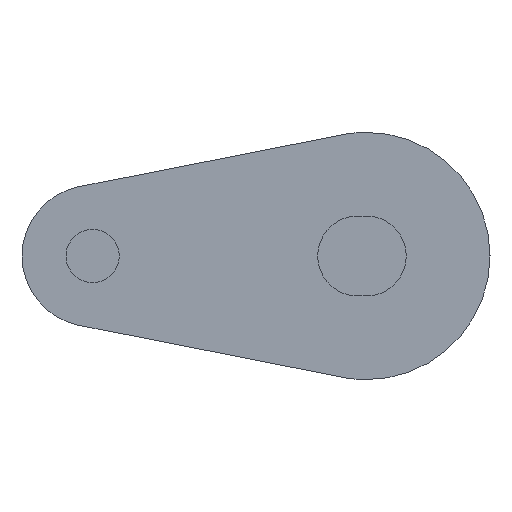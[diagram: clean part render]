
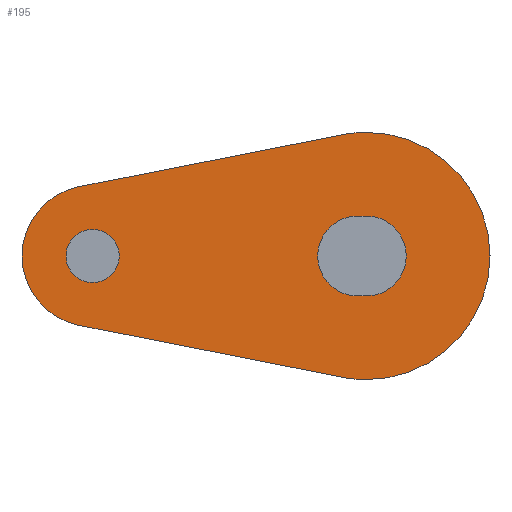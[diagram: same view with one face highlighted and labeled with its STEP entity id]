
A CAD part, left-side view. The second image highlights one B-rep face of the part: STEP entity #195.
In plain terms, the highlighted planar face has unit normal (-1, 0, 0).
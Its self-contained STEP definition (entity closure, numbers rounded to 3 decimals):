
#29 = DIRECTION ( 'NONE',  ( 0., -0.981, 0.194 ) ) ;
#30 = CARTESIAN_POINT ( 'NONE',  ( -354.5, 16.274, 3.924 ) ) ;
#72 = PLANE ( 'NONE',  #900 ) ;
#73 = CARTESIAN_POINT ( 'NONE',  ( -354.5, 15.5, 0. ) ) ;
#78 = EDGE_CURVE ( 'NONE', #650, #429, #860, .T. ) ;
#81 = EDGE_CURVE ( 'NONE', #429, #653, #840, .T. ) ;
#85 = EDGE_CURVE ( 'NONE', #584, #650, #838, .T. ) ;
#88 = EDGE_CURVE ( 'NONE', #649, #646, #889, .T. ) ;
#91 = EDGE_CURVE ( 'NONE', #583, #427, #883, .T. ) ;
#92 = AXIS2_PLACEMENT_3D ( 'NONE', #580, #564, #601 ) ;
#94 = EDGE_CURVE ( 'NONE', #427, #424, #881, .T. ) ;
#95 = EDGE_CURVE ( 'NONE', #653, #419, #879, .T. ) ;
#97 = EDGE_CURVE ( 'NONE', #571, #583, #861, .T. ) ;
#101 = EDGE_CURVE ( 'NONE', #424, #571, #863, .T. ) ;
#105 = AXIS2_PLACEMENT_3D ( 'NONE', #605, #606, #607 ) ;
#109 = AXIS2_PLACEMENT_3D ( 'NONE', #637, #655, #654 ) ;
#130 = EDGE_CURVE ( 'NONE', #646, #649, #815, .T. ) ;
#141 = AXIS2_PLACEMENT_3D ( 'NONE', #635, #633, #639 ) ;
#149 = EDGE_CURVE ( 'NONE', #419, #430, #776, .T. ) ;
#162 = EDGE_CURVE ( 'NONE', #430, #584, #539, .T. ) ;
#164 = AXIS2_PLACEMENT_3D ( 'NONE', #597, #596, #622 ) ;
#195 = ADVANCED_FACE ( 'NONE', ( #1055, #498, #1052 ), #72, .T. ) ;
#208 = DIRECTION ( 'NONE',  ( 0., 0., -1. ) ) ;
#209 = DIRECTION ( 'NONE',  ( 1., 0., 0. ) ) ;
#222 = CARTESIAN_POINT ( 'NONE',  ( -354.5, 15.5, 0. ) ) ;
#223 = DIRECTION ( 'NONE',  ( 0., 0., -1. ) ) ;
#242 = EDGE_LOOP ( 'NONE', ( #1017, #970, #972, #971 ) ) ;
#277 = EDGE_LOOP ( 'NONE', ( #980, #981, #1030, #1029, #1009, #959 ) ) ;
#309 = EDGE_LOOP ( 'NONE', ( #1016, #979 ) ) ;
#327 = DIRECTION ( 'NONE',  ( 1., 0., 0. ) ) ;
#335 = CARTESIAN_POINT ( 'NONE',  ( -354.5, 15.5, 0. ) ) ;
#349 = DIRECTION ( 'NONE',  ( -1., 0., 0. ) ) ;
#419 = VERTEX_POINT ( 'NONE', #704 ) ;
#424 = VERTEX_POINT ( 'NONE', #699 ) ;
#427 = VERTEX_POINT ( 'NONE', #692 ) ;
#429 = VERTEX_POINT ( 'NONE', #694 ) ;
#430 = VERTEX_POINT ( 'NONE', #695 ) ;
#498 = FACE_BOUND ( 'NONE', #309, .T. ) ;
#510 = VECTOR ( 'NONE', #29, 1000. ) ;
#539 = LINE ( 'NONE', #30, #510 ) ;
#564 = DIRECTION ( 'NONE',  ( 1., 0., 0. ) ) ;
#571 = VERTEX_POINT ( 'NONE', #750 ) ;
#580 = CARTESIAN_POINT ( 'NONE',  ( -354.5, 15.5, 0. ) ) ;
#583 = VERTEX_POINT ( 'NONE', #742 ) ;
#584 = VERTEX_POINT ( 'NONE', #743 ) ;
#596 = DIRECTION ( 'NONE',  ( 1., 0., 0. ) ) ;
#597 = CARTESIAN_POINT ( 'NONE',  ( -354.5, 0., 0. ) ) ;
#601 = DIRECTION ( 'NONE',  ( 0., 0., -1. ) ) ;
#603 = CARTESIAN_POINT ( 'NONE',  ( -354.5, 0.5, 2.26 ) ) ;
#605 = CARTESIAN_POINT ( 'NONE',  ( -354.5, 0., 0. ) ) ;
#606 = DIRECTION ( 'NONE',  ( 1., 0., 0. ) ) ;
#607 = DIRECTION ( 'NONE',  ( 0., 0., -1. ) ) ;
#615 = CARTESIAN_POINT ( 'NONE',  ( -354.5, 0.5, 0. ) ) ;
#620 = DIRECTION ( 'NONE',  ( 0., -1., 0. ) ) ;
#622 = DIRECTION ( 'NONE',  ( 0., 0., -1. ) ) ;
#627 = DIRECTION ( 'NONE',  ( 1., 0., 0. ) ) ;
#628 = DIRECTION ( 'NONE',  ( 0., 0., -1. ) ) ;
#633 = DIRECTION ( 'NONE',  ( 1., 0., 0. ) ) ;
#635 = CARTESIAN_POINT ( 'NONE',  ( -354.5, 0., 0. ) ) ;
#637 = CARTESIAN_POINT ( 'NONE',  ( -354.5, 0., 0. ) ) ;
#639 = DIRECTION ( 'NONE',  ( 0., 0., -1. ) ) ;
#640 = CARTESIAN_POINT ( 'NONE',  ( -354.5, 1.355, -6.868 ) ) ;
#641 = DIRECTION ( 'NONE',  ( 0., 1., 0. ) ) ;
#642 = CARTESIAN_POINT ( 'NONE',  ( -354.5, 0.5, -2.26 ) ) ;
#646 = VERTEX_POINT ( 'NONE', #731 ) ;
#649 = VERTEX_POINT ( 'NONE', #734 ) ;
#650 = VERTEX_POINT ( 'NONE', #726 ) ;
#652 = DIRECTION ( 'NONE',  ( 0., 0.981, 0.194 ) ) ;
#653 = VERTEX_POINT ( 'NONE', #728 ) ;
#654 = DIRECTION ( 'NONE',  ( 0., 0., -1. ) ) ;
#655 = DIRECTION ( 'NONE',  ( 1., 0., 0. ) ) ;
#692 = CARTESIAN_POINT ( 'NONE',  ( -354.5, 0., -2.26 ) ) ;
#694 = CARTESIAN_POINT ( 'NONE',  ( -354.5, 0., -7. ) ) ;
#695 = CARTESIAN_POINT ( 'NONE',  ( -354.5, 16.274, 3.924 ) ) ;
#699 = CARTESIAN_POINT ( 'NONE',  ( -354.5, 0.5, -2.26 ) ) ;
#704 = CARTESIAN_POINT ( 'NONE',  ( -354.5, 16.274, -3.924 ) ) ;
#726 = CARTESIAN_POINT ( 'NONE',  ( -354.5, 0., 7. ) ) ;
#728 = CARTESIAN_POINT ( 'NONE',  ( -354.5, 1.355, -6.868 ) ) ;
#731 = CARTESIAN_POINT ( 'NONE',  ( -354.5, 15.5, -1.51 ) ) ;
#734 = CARTESIAN_POINT ( 'NONE',  ( -354.5, 15.5, 1.51 ) ) ;
#742 = CARTESIAN_POINT ( 'NONE',  ( -354.5, 0., 2.26 ) ) ;
#743 = CARTESIAN_POINT ( 'NONE',  ( -354.5, 1.355, 6.868 ) ) ;
#750 = CARTESIAN_POINT ( 'NONE',  ( -354.5, 0.5, 2.26 ) ) ;
#776 = CIRCLE ( 'NONE', #917, 4. ) ;
#815 = CIRCLE ( 'NONE', #920, 1.51 ) ;
#838 = CIRCLE ( 'NONE', #141, 7. ) ;
#840 = CIRCLE ( 'NONE', #105, 7. ) ;
#860 = CIRCLE ( 'NONE', #109, 7. ) ;
#861 = LINE ( 'NONE', #603, #875 ) ;
#863 = CIRCLE ( 'NONE', #916, 2.26 ) ;
#875 = VECTOR ( 'NONE', #620, 1000. ) ;
#878 = VECTOR ( 'NONE', #652, 1000. ) ;
#879 = LINE ( 'NONE', #640, #878 ) ;
#880 = VECTOR ( 'NONE', #641, 1000. ) ;
#881 = LINE ( 'NONE', #642, #880 ) ;
#883 = CIRCLE ( 'NONE', #164, 2.26 ) ;
#889 = CIRCLE ( 'NONE', #92, 1.51 ) ;
#900 = AXIS2_PLACEMENT_3D ( 'NONE', #73, #349, #1031 ) ;
#916 = AXIS2_PLACEMENT_3D ( 'NONE', #615, #627, #628 ) ;
#917 = AXIS2_PLACEMENT_3D ( 'NONE', #335, #327, #223 ) ;
#920 = AXIS2_PLACEMENT_3D ( 'NONE', #222, #209, #208 ) ;
#959 = ORIENTED_EDGE ( 'NONE', *, *, #162, .F. ) ;
#970 = ORIENTED_EDGE ( 'NONE', *, *, #97, .T. ) ;
#971 = ORIENTED_EDGE ( 'NONE', *, *, #94, .T. ) ;
#972 = ORIENTED_EDGE ( 'NONE', *, *, #91, .T. ) ;
#979 = ORIENTED_EDGE ( 'NONE', *, *, #88, .T. ) ;
#980 = ORIENTED_EDGE ( 'NONE', *, *, #149, .F. ) ;
#981 = ORIENTED_EDGE ( 'NONE', *, *, #95, .F. ) ;
#1009 = ORIENTED_EDGE ( 'NONE', *, *, #85, .F. ) ;
#1016 = ORIENTED_EDGE ( 'NONE', *, *, #130, .T. ) ;
#1017 = ORIENTED_EDGE ( 'NONE', *, *, #101, .T. ) ;
#1029 = ORIENTED_EDGE ( 'NONE', *, *, #78, .F. ) ;
#1030 = ORIENTED_EDGE ( 'NONE', *, *, #81, .F. ) ;
#1031 = DIRECTION ( 'NONE',  ( 0., 0., -1. ) ) ;
#1052 = FACE_OUTER_BOUND ( 'NONE', #277, .T. ) ;
#1055 = FACE_BOUND ( 'NONE', #242, .T. ) ;
